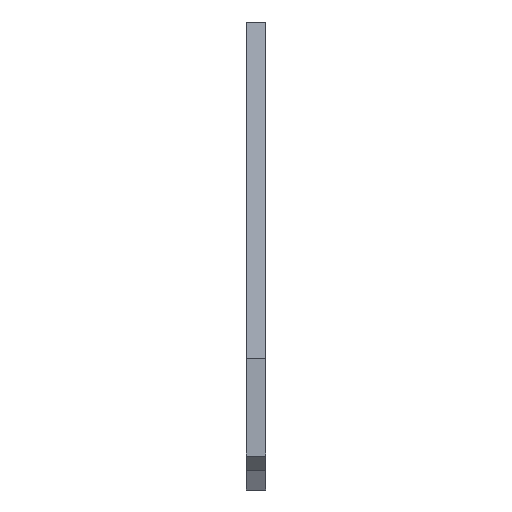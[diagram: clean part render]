
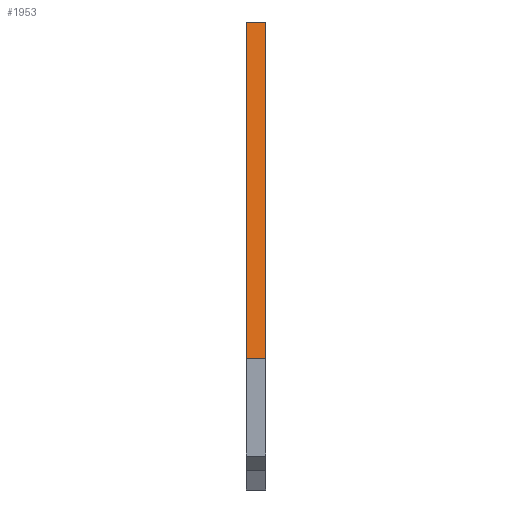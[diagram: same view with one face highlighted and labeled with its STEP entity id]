
A CAD part, front view. The second image highlights one B-rep face of the part: STEP entity #1953.
In plain terms, the highlighted planar face has unit normal (0, -0.989, 0.15).
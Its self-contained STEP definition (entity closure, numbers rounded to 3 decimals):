
#44 = PLANE('',#45);
#45 = AXIS2_PLACEMENT_3D('',#46,#47,#48);
#46 = CARTESIAN_POINT('',(47.,-27.8,-277.));
#47 = DIRECTION('',(-0.,1.,0.));
#48 = DIRECTION('',(0.,0.,-1.));
#72 = PLANE('',#73);
#73 = AXIS2_PLACEMENT_3D('',#74,#75,#76);
#74 = CARTESIAN_POINT('',(51.,31.225,-257.251));
#75 = DIRECTION('',(1.,0.,0.));
#76 = DIRECTION('',(-0.,0.,1.));
#126 = PLANE('',#127);
#127 = AXIS2_PLACEMENT_3D('',#128,#129,#130);
#128 = CARTESIAN_POINT('',(47.,31.225,-257.251));
#129 = DIRECTION('',(1.,0.,0.));
#130 = DIRECTION('',(-0.,0.,1.));
#141 = EDGE_CURVE('',#142,#144,#146,.T.);
#142 = VERTEX_POINT('',#143);
#143 = CARTESIAN_POINT('',(47.,-27.8,-277.));
#144 = VERTEX_POINT('',#145);
#145 = CARTESIAN_POINT('',(51.,-27.8,-277.));
#146 = SURFACE_CURVE('',#147,(#151,#158),.PCURVE_S1.);
#147 = LINE('',#148,#149);
#148 = CARTESIAN_POINT('',(47.,-27.8,-277.));
#149 = VECTOR('',#150,1.);
#150 = DIRECTION('',(1.,0.,0.));
#151 = PCURVE('',#44,#152);
#152 = DEFINITIONAL_REPRESENTATION('',(#153),#157);
#153 = LINE('',#154,#155);
#154 = CARTESIAN_POINT('',(0.,0.));
#155 = VECTOR('',#156,1.);
#156 = DIRECTION('',(0.,-1.));
#157 = ( GEOMETRIC_REPRESENTATION_CONTEXT(2) 
PARAMETRIC_REPRESENTATION_CONTEXT() REPRESENTATION_CONTEXT('2D SPACE',''
  ) );
#158 = PCURVE('',#159,#164);
#159 = PLANE('',#160);
#160 = AXIS2_PLACEMENT_3D('',#161,#162,#163);
#161 = CARTESIAN_POINT('',(47.,-17.3,-207.637));
#162 = DIRECTION('',(0.,0.989,-0.15));
#163 = DIRECTION('',(0.,-0.15,-0.989));
#164 = DEFINITIONAL_REPRESENTATION('',(#165),#169);
#165 = LINE('',#166,#167);
#166 = CARTESIAN_POINT('',(70.154,0.));
#167 = VECTOR('',#168,1.);
#168 = DIRECTION('',(0.,-1.));
#169 = ( GEOMETRIC_REPRESENTATION_CONTEXT(2) 
PARAMETRIC_REPRESENTATION_CONTEXT() REPRESENTATION_CONTEXT('2D SPACE',''
  ) );
#543 = VERTEX_POINT('',#544);
#544 = CARTESIAN_POINT('',(47.,-17.3,-207.637));
#558 = PLANE('',#559);
#559 = AXIS2_PLACEMENT_3D('',#560,#561,#562);
#560 = CARTESIAN_POINT('',(47.,14.7,-207.637));
#561 = DIRECTION('',(0.,0.,-1.));
#562 = DIRECTION('',(0.,-1.,0.));
#570 = EDGE_CURVE('',#543,#142,#571,.T.);
#571 = SURFACE_CURVE('',#572,(#576,#583),.PCURVE_S1.);
#572 = LINE('',#573,#574);
#573 = CARTESIAN_POINT('',(47.,-17.3,-207.637));
#574 = VECTOR('',#575,1.);
#575 = DIRECTION('',(0.,-0.15,-0.989));
#576 = PCURVE('',#126,#577);
#577 = DEFINITIONAL_REPRESENTATION('',(#578),#582);
#578 = LINE('',#579,#580);
#579 = CARTESIAN_POINT('',(49.614,48.525));
#580 = VECTOR('',#581,1.);
#581 = DIRECTION('',(-0.989,0.15));
#582 = ( GEOMETRIC_REPRESENTATION_CONTEXT(2) 
PARAMETRIC_REPRESENTATION_CONTEXT() REPRESENTATION_CONTEXT('2D SPACE',''
  ) );
#583 = PCURVE('',#159,#584);
#584 = DEFINITIONAL_REPRESENTATION('',(#585),#589);
#585 = LINE('',#586,#587);
#586 = CARTESIAN_POINT('',(0.,0.));
#587 = VECTOR('',#588,1.);
#588 = DIRECTION('',(1.,0.));
#589 = ( GEOMETRIC_REPRESENTATION_CONTEXT(2) 
PARAMETRIC_REPRESENTATION_CONTEXT() REPRESENTATION_CONTEXT('2D SPACE',''
  ) );
#1400 = VERTEX_POINT('',#1401);
#1401 = CARTESIAN_POINT('',(51.,-17.3,-207.637));
#1422 = EDGE_CURVE('',#1400,#144,#1423,.T.);
#1423 = SURFACE_CURVE('',#1424,(#1428,#1435),.PCURVE_S1.);
#1424 = LINE('',#1425,#1426);
#1425 = CARTESIAN_POINT('',(51.,-17.3,-207.637));
#1426 = VECTOR('',#1427,1.);
#1427 = DIRECTION('',(0.,-0.15,-0.989));
#1428 = PCURVE('',#72,#1429);
#1429 = DEFINITIONAL_REPRESENTATION('',(#1430),#1434);
#1430 = LINE('',#1431,#1432);
#1431 = CARTESIAN_POINT('',(49.614,48.525));
#1432 = VECTOR('',#1433,1.);
#1433 = DIRECTION('',(-0.989,0.15));
#1434 = ( GEOMETRIC_REPRESENTATION_CONTEXT(2) 
PARAMETRIC_REPRESENTATION_CONTEXT() REPRESENTATION_CONTEXT('2D SPACE',''
  ) );
#1435 = PCURVE('',#159,#1436);
#1436 = DEFINITIONAL_REPRESENTATION('',(#1437),#1441);
#1437 = LINE('',#1438,#1439);
#1438 = CARTESIAN_POINT('',(0.,-4.));
#1439 = VECTOR('',#1440,1.);
#1440 = DIRECTION('',(1.,0.));
#1441 = ( GEOMETRIC_REPRESENTATION_CONTEXT(2) 
PARAMETRIC_REPRESENTATION_CONTEXT() REPRESENTATION_CONTEXT('2D SPACE',''
  ) );
#1953 = ADVANCED_FACE('',(#1954),#159,.F.);
#1954 = FACE_BOUND('',#1955,.F.);
#1955 = EDGE_LOOP('',(#1956,#1977,#1978,#1979));
#1956 = ORIENTED_EDGE('',*,*,#1957,.T.);
#1957 = EDGE_CURVE('',#543,#1400,#1958,.T.);
#1958 = SURFACE_CURVE('',#1959,(#1963,#1970),.PCURVE_S1.);
#1959 = LINE('',#1960,#1961);
#1960 = CARTESIAN_POINT('',(47.,-17.3,-207.637));
#1961 = VECTOR('',#1962,1.);
#1962 = DIRECTION('',(1.,0.,0.));
#1963 = PCURVE('',#159,#1964);
#1964 = DEFINITIONAL_REPRESENTATION('',(#1965),#1969);
#1965 = LINE('',#1966,#1967);
#1966 = CARTESIAN_POINT('',(0.,0.));
#1967 = VECTOR('',#1968,1.);
#1968 = DIRECTION('',(0.,-1.));
#1969 = ( GEOMETRIC_REPRESENTATION_CONTEXT(2) 
PARAMETRIC_REPRESENTATION_CONTEXT() REPRESENTATION_CONTEXT('2D SPACE',''
  ) );
#1970 = PCURVE('',#558,#1971);
#1971 = DEFINITIONAL_REPRESENTATION('',(#1972),#1976);
#1972 = LINE('',#1973,#1974);
#1973 = CARTESIAN_POINT('',(32.,0.));
#1974 = VECTOR('',#1975,1.);
#1975 = DIRECTION('',(0.,-1.));
#1976 = ( GEOMETRIC_REPRESENTATION_CONTEXT(2) 
PARAMETRIC_REPRESENTATION_CONTEXT() REPRESENTATION_CONTEXT('2D SPACE',''
  ) );
#1977 = ORIENTED_EDGE('',*,*,#1422,.T.);
#1978 = ORIENTED_EDGE('',*,*,#141,.F.);
#1979 = ORIENTED_EDGE('',*,*,#570,.F.);
